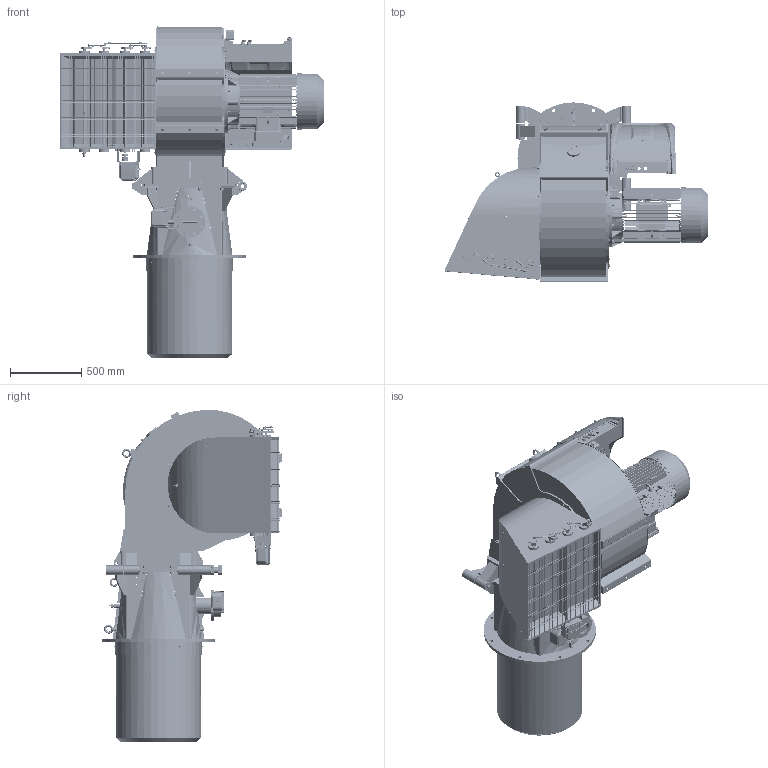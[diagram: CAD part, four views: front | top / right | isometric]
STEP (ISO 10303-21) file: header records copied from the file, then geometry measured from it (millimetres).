
FILE_DESCRIPTION (( 'STEP AP203' ), '1' );
FILE_NAME ('67500010-TBG2000 ME.STEP', '2018-07-24T14:15:33', ( '' ), ( '' ), 'SwSTEP 2.0', 'SolidWorks 2016', '' );
FILE_SCHEMA (( 'CONFIG_CONTROL_DESIGN' ));
Length unit declared in the file: millimetre
Products named in the file (2): 67500010-TBG2000 ME
Bounding box: 1850.13 x 1260.85 x 2333.1 mm (x, y, z)
Surface area: 22337215.6 mm2 (no closed solid volume)
Topology: 0 solids, 2040 shells, 7167 faces, 37387 edges, 30402 vertices
Faces by surface type: plane 3512, cylinder 1516, bspline 1233, cone 646, torus 229, sphere 31
Full cylindrical faces by diameter (mm): 1.5 x8, 2.5 x4, 3 x56, 3.242 x3, 3.3 x7, 3.5 x1, 3.95 x1, 4 x2, 4.2 x7, 4.3 x2, 4.5 x1, 4.6 x1, 4.7 x5, 4.917 x1, 5 x19, 5.1 x2, 5.2 x1, 5.4 x1, 5.5 x2, 6 x22, 6.4 x4, 6.5 x2, 6.8 x11, 7 x7, 7.5 x1, 8 x40, 8.4 x5, 8.5 x8, 8.9 x2, 9 x1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
Entity records: 507920 total; most frequent: CARTESIAN_POINT 246917, DIRECTION 45970, ORIENTED_EDGE 44219, EDGE_CURVE 35680, VERTEX_POINT 30104, LINE 18506, VECTOR 18506, AXIS2_PLACEMENT_3D 13732
